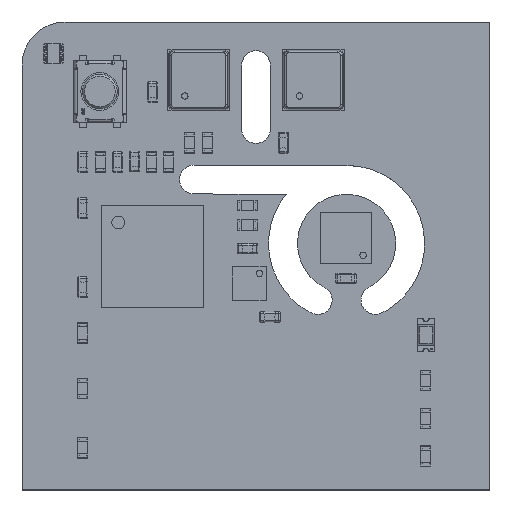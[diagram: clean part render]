
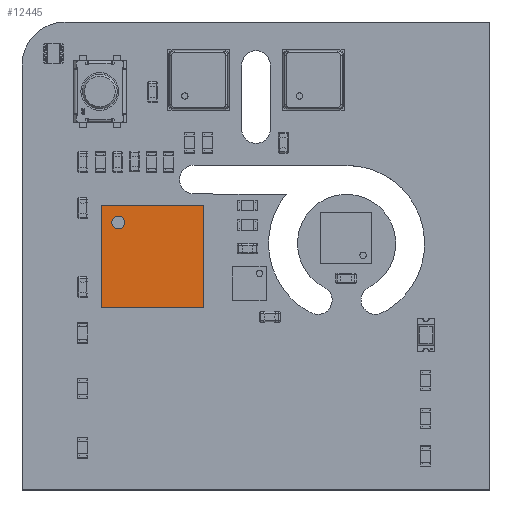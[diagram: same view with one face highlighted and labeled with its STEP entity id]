
A CAD part, top view. The second image highlights one B-rep face of the part: STEP entity #12445.
In plain terms, the highlighted planar face has unit normal (0, 0, 1).
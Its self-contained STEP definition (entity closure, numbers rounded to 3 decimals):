
#12381 = VERTEX_POINT('',#12382);
#12382 = CARTESIAN_POINT('',(0.,0.,1.));
#12397 = VERTEX_POINT('',#12398);
#12398 = CARTESIAN_POINT('',(0.,5.,1.));
#12404 = EDGE_CURVE('',#12381,#12397,#12405,.T.);
#12405 = LINE('',#12406,#12407);
#12406 = CARTESIAN_POINT('',(0.,0.,1.));
#12407 = VECTOR('',#12408,1.);
#12408 = DIRECTION('',(-0.,1.,0.));
#12427 = EDGE_CURVE('',#12381,#12428,#12430,.T.);
#12428 = VERTEX_POINT('',#12429);
#12429 = CARTESIAN_POINT('',(5.,0.,1.));
#12430 = LINE('',#12431,#12432);
#12431 = CARTESIAN_POINT('',(0.,0.,1.));
#12432 = VECTOR('',#12433,1.);
#12433 = DIRECTION('',(1.,0.,-0.));
#12445 = ADVANCED_FACE('',(#12446,#12464),#12475,.T.);
#12446 = FACE_BOUND('',#12447,.T.);
#12447 = EDGE_LOOP('',(#12448,#12449,#12450,#12458));
#12448 = ORIENTED_EDGE('',*,*,#12404,.F.);
#12449 = ORIENTED_EDGE('',*,*,#12427,.T.);
#12450 = ORIENTED_EDGE('',*,*,#12451,.T.);
#12451 = EDGE_CURVE('',#12428,#12452,#12454,.T.);
#12452 = VERTEX_POINT('',#12453);
#12453 = CARTESIAN_POINT('',(5.,5.,1.));
#12454 = LINE('',#12455,#12456);
#12455 = CARTESIAN_POINT('',(5.,0.,1.));
#12456 = VECTOR('',#12457,1.);
#12457 = DIRECTION('',(-0.,1.,0.));
#12458 = ORIENTED_EDGE('',*,*,#12459,.F.);
#12459 = EDGE_CURVE('',#12397,#12452,#12460,.T.);
#12460 = LINE('',#12461,#12462);
#12461 = CARTESIAN_POINT('',(0.,5.,1.));
#12462 = VECTOR('',#12463,1.);
#12463 = DIRECTION('',(1.,0.,-0.));
#12464 = FACE_BOUND('',#12465,.T.);
#12465 = EDGE_LOOP('',(#12466));
#12466 = ORIENTED_EDGE('',*,*,#12467,.F.);
#12467 = EDGE_CURVE('',#12468,#12468,#12470,.T.);
#12468 = VERTEX_POINT('',#12469);
#12469 = CARTESIAN_POINT('',(1.146,4.167,1.));
#12470 = CIRCLE('',#12471,0.313);
#12471 = AXIS2_PLACEMENT_3D('',#12472,#12473,#12474);
#12472 = CARTESIAN_POINT('',(0.833,4.167,1.));
#12473 = DIRECTION('',(0.,0.,1.));
#12474 = DIRECTION('',(1.,0.,-0.));
#12475 = PLANE('',#12476);
#12476 = AXIS2_PLACEMENT_3D('',#12477,#12478,#12479);
#12477 = CARTESIAN_POINT('',(0.,0.,1.));
#12478 = DIRECTION('',(0.,0.,1.));
#12479 = DIRECTION('',(1.,0.,-0.));
